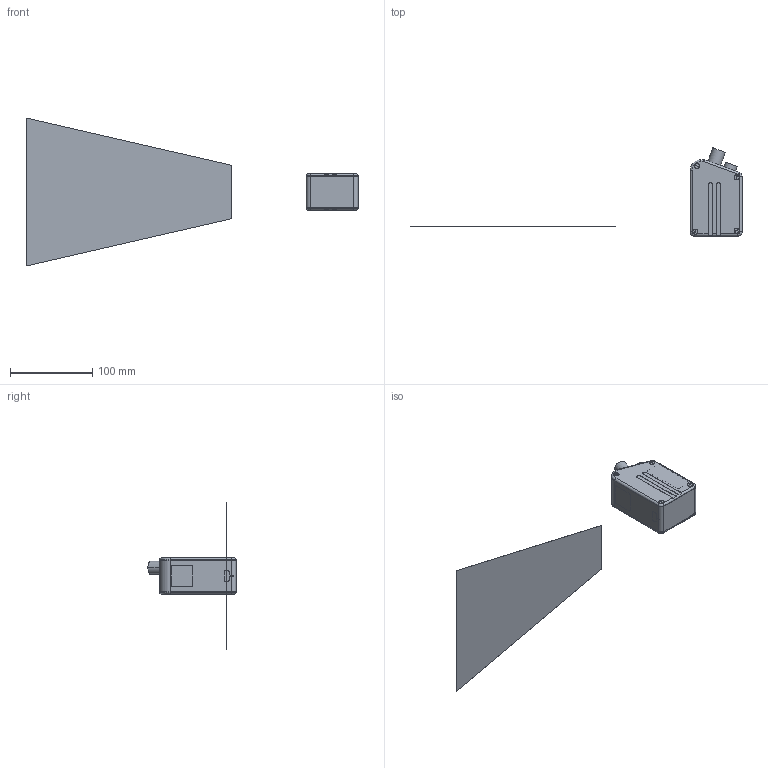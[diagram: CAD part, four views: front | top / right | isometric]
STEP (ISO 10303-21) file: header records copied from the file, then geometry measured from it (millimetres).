
FILE_DESCRIPTION (( 'STEP AP214' ), '1' );
FILE_NAME ('ÐÔ 627.90_250.000_ÑÁ ñêàíåð äëÿ ñàéòà.STEP', '2019-07-02T08:29:50', ( 'test' ), ( 'Ref' ), 'SwSTEP 2.0', 'SolidWorks 2015', '' );
FILE_SCHEMA (( 'AUTOMOTIVE_DESIGN' ));
Length unit declared in the file: millimetre
Products named in the file (13): Êîðïóñ 627 - 75-50 ñ ïàçîì ïîñëåäíåå; 栺樏鋋 14-6-2; 性 625.75_ 袜觌彘赅_觏铒觇; Ðåçüáîâàÿ âòóëêà Ì6-6; Êðûøêà 627 â5 çåðêàëüíàÿ ïîñëåäíÿÿ; Âèíò_Ì2õ4; Ïîëå âèäèìèîñòè 250 ìàëàÿ; 栺樏鋋 26-26-2 擤; ÐÔ 627.90_250.000_ÑÁ ñêàíåð äëÿ ñàéòà; Êðûøêà 627 - â5 êðûøêà áîêîâàÿ ïîñëåäíÿÿ 1; Âèíò_Ì3x8 â ïîòàé; Âèíò_Ì3x10 â ïîòàé; RF627_80_017(1) ýëåêòðîíèêà
Assembly tree (24 placements, depth 2):
  ÐÔ 627.90_250.000_ÑÁ ñêàíåð äëÿ ñàéòà
    Êîðïóñ 627 - 75-50 ñ ïàçîì ïîñëåäíåå
    Êðûøêà 627 - â5 êðûøêà áîêîâàÿ ïîñëåäíÿÿ 1
    Êðûøêà 627 â5 çåðêàëüíàÿ ïîñëåäíÿÿ
    Ðåçüáîâàÿ âòóëêà Ì6-6  x4
    性 625.75_ 袜觌彘赅_觏铒觇
    Âèíò_Ì2õ4  x4
    Âèíò_Ì3x10 â ïîòàé  x6
    栺樏鋋 14-6-2
    栺樏鋋 26-26-2 擤
    Âèíò_Ì3x8 â ïîòàé  x2
    RF627_80_017(1) ýëåêòðîíèêà
    Ïîëå âèäèìèîñòè 250 ìàëàÿ
Bounding box: 404 x 107.19 x 180 mm (x, y, z)
Volume: 75361.5 mm3; surface area: 122184.5 mm2
Topology: 25 solids, 30 shells, 1106 faces, 2927 edges, 1900 vertices
Faces by surface type: plane 580, cylinder 300, cone 112, bspline 84, torus 30
Entity records: 33943 total; most frequent: CARTESIAN_POINT 9692, ORIENTED_EDGE 4758, DIRECTION 4505, EDGE_CURVE 2401, VERTEX_POINT 1576, LINE 1571, VECTOR 1571, AXIS2_PLACEMENT_3D 1467
